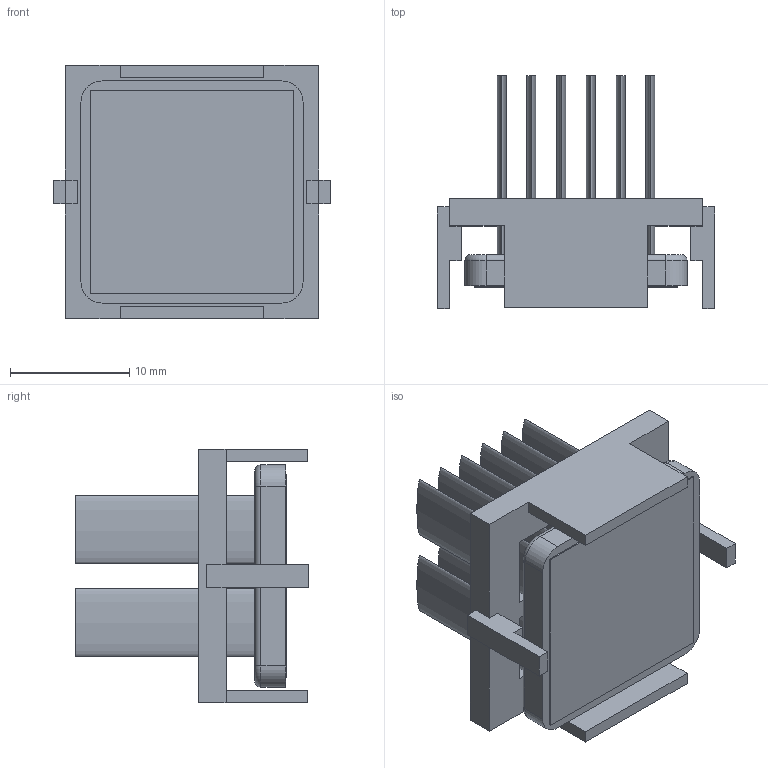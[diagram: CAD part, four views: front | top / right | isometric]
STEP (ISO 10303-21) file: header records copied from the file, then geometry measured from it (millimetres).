
FILE_DESCRIPTION (( 'STEP AP214' ), '1' );
FILE_NAME ('INM19001-18W-2.6BU.STEP', '2023-03-02T18:17:08', ( '' ), ( '' ), 'SwSTEP 2.0', 'SolidWorks 2020', '' );
FILE_SCHEMA (( 'AUTOMOTIVE_DESIGN' ));
Length unit declared in the file: millimetre
Products named in the file (1): INM19001-18W-2.6BU
Bounding box: 23.2 x 19.5 x 21.2 mm (x, y, z)
Volume: 2373.9 mm3; surface area: 4928.1 mm2
Topology: 3 solids, 3 shells, 106 faces, 256 edges, 168 vertices
Faces by surface type: plane 70, bspline 24, cylinder 8, torus 4
Entity records: 4330 total; most frequent: CARTESIAN_POINT 843, ORIENTED_EDGE 512, DIRECTION 394, EDGE_CURVE 256, LINE 188, VECTOR 188, VERTEX_POINT 168, EDGE_LOOP 120
